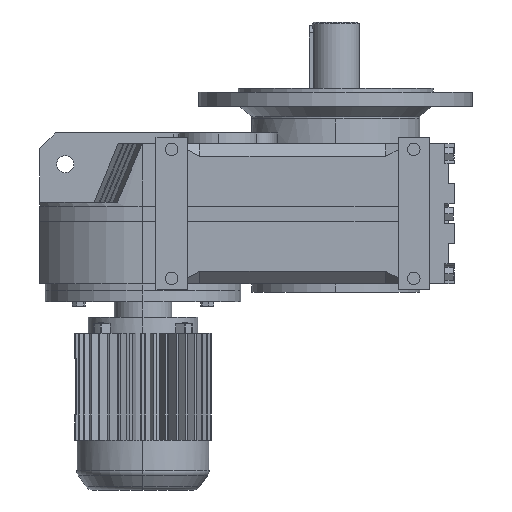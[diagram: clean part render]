
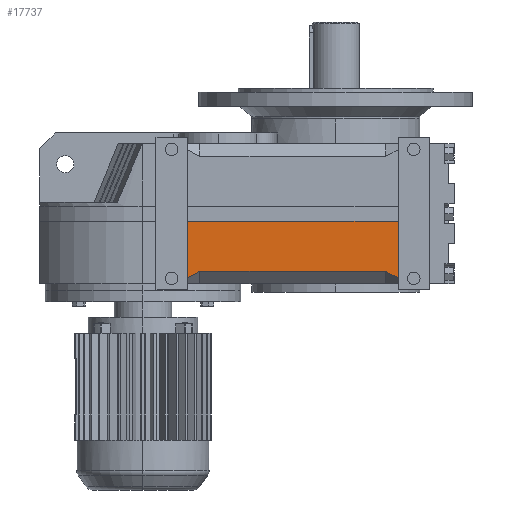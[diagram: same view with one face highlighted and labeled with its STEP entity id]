
A CAD part, left-side view. The second image highlights one B-rep face of the part: STEP entity #17737.
In plain terms, the highlighted planar face has unit normal (-1, 0, 0).
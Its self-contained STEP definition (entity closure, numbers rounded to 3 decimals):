
#2251 = PLANE('',#2252);
#2252 = AXIS2_PLACEMENT_3D('',#2253,#2254,#2255);
#2253 = CARTESIAN_POINT('',(-131.2,-56.7,1.));
#2254 = DIRECTION('',(0.,-1.,0.));
#2255 = DIRECTION('',(0.,0.,-1.));
#2363 = PLANE('',#2364);
#2364 = AXIS2_PLACEMENT_3D('',#2365,#2366,#2367);
#2365 = CARTESIAN_POINT('',(-131.2,-326.7,1.));
#2366 = DIRECTION('',(0.,1.,0.));
#2367 = DIRECTION('',(0.,0.,1.));
#10202 = VERTEX_POINT('',#10203);
#10203 = CARTESIAN_POINT('',(-157.2,-326.7,88.75));
#10217 = PLANE('',#10218);
#10218 = AXIS2_PLACEMENT_3D('',#10219,#10220,#10221);
#10219 = CARTESIAN_POINT('',(-11.809,1.,88.75));
#10220 = DIRECTION('',(0.,0.,-1.));
#10221 = DIRECTION('',(-1.,0.,0.));
#10229 = EDGE_CURVE('',#10230,#10202,#10232,.T.);
#10230 = VERTEX_POINT('',#10231);
#10231 = CARTESIAN_POINT('',(-157.2,-326.7,16.564));
#10232 = SURFACE_CURVE('',#10233,(#10237,#10244),.PCURVE_S1.);
#10233 = LINE('',#10234,#10235);
#10234 = CARTESIAN_POINT('',(-157.2,-326.7,188.2));
#10235 = VECTOR('',#10236,1.);
#10236 = DIRECTION('',(0.,0.,1.));
#10237 = PCURVE('',#2363,#10238);
#10238 = DEFINITIONAL_REPRESENTATION('',(#10239),#10243);
#10239 = LINE('',#10240,#10241);
#10240 = CARTESIAN_POINT('',(187.2,-26.));
#10241 = VECTOR('',#10242,1.);
#10242 = DIRECTION('',(1.,0.));
#10243 = ( GEOMETRIC_REPRESENTATION_CONTEXT(2) 
PARAMETRIC_REPRESENTATION_CONTEXT() REPRESENTATION_CONTEXT('2D SPACE',''
  ) );
#10244 = PCURVE('',#10245,#10250);
#10245 = PLANE('',#10246);
#10246 = AXIS2_PLACEMENT_3D('',#10247,#10248,#10249);
#10247 = CARTESIAN_POINT('',(-157.2,-398.7,188.2));
#10248 = DIRECTION('',(1.,0.,0.));
#10249 = DIRECTION('',(0.,0.,-1.));
#10250 = DEFINITIONAL_REPRESENTATION('',(#10251),#10255);
#10251 = LINE('',#10252,#10253);
#10252 = CARTESIAN_POINT('',(0.,72.));
#10253 = VECTOR('',#10254,1.);
#10254 = DIRECTION('',(-1.,0.));
#10255 = ( GEOMETRIC_REPRESENTATION_CONTEXT(2) 
PARAMETRIC_REPRESENTATION_CONTEXT() REPRESENTATION_CONTEXT('2D SPACE',''
  ) );
#10273 = PLANE('',#10274);
#10274 = AXIS2_PLACEMENT_3D('',#10275,#10276,#10277);
#10275 = CARTESIAN_POINT('',(-136.418,-326.7,-4.218));
#10276 = DIRECTION('',(0.664,-0.342,0.664));
#10277 = DIRECTION('',(0.707,0.,-0.707));
#11404 = VERTEX_POINT('',#11405);
#11405 = CARTESIAN_POINT('',(-157.2,-56.7,16.564));
#11419 = PLANE('',#11420);
#11420 = AXIS2_PLACEMENT_3D('',#11421,#11422,#11423);
#11421 = CARTESIAN_POINT('',(-136.418,-56.7,-4.218));
#11422 = DIRECTION('',(0.664,0.342,0.664));
#11423 = DIRECTION('',(0.707,0.,-0.707));
#11431 = EDGE_CURVE('',#11432,#11404,#11434,.T.);
#11432 = VERTEX_POINT('',#11433);
#11433 = CARTESIAN_POINT('',(-157.2,-56.7,88.75));
#11434 = SURFACE_CURVE('',#11435,(#11439,#11446),.PCURVE_S1.);
#11435 = LINE('',#11436,#11437);
#11436 = CARTESIAN_POINT('',(-157.2,-56.7,188.2));
#11437 = VECTOR('',#11438,1.);
#11438 = DIRECTION('',(0.,0.,-1.));
#11439 = PCURVE('',#2251,#11440);
#11440 = DEFINITIONAL_REPRESENTATION('',(#11441),#11445);
#11441 = LINE('',#11442,#11443);
#11442 = CARTESIAN_POINT('',(-187.2,-26.));
#11443 = VECTOR('',#11444,1.);
#11444 = DIRECTION('',(1.,0.));
#11445 = ( GEOMETRIC_REPRESENTATION_CONTEXT(2) 
PARAMETRIC_REPRESENTATION_CONTEXT() REPRESENTATION_CONTEXT('2D SPACE',''
  ) );
#11446 = PCURVE('',#10245,#11447);
#11447 = DEFINITIONAL_REPRESENTATION('',(#11448),#11452);
#11448 = LINE('',#11449,#11450);
#11449 = CARTESIAN_POINT('',(0.,342.));
#11450 = VECTOR('',#11451,1.);
#11451 = DIRECTION('',(1.,0.));
#11452 = ( GEOMETRIC_REPRESENTATION_CONTEXT(2) 
PARAMETRIC_REPRESENTATION_CONTEXT() REPRESENTATION_CONTEXT('2D SPACE',''
  ) );
#14680 = PLANE('',#14681);
#14681 = AXIS2_PLACEMENT_3D('',#14682,#14683,#14684);
#14682 = CARTESIAN_POINT('',(-157.2,-398.7,24.8));
#14683 = DIRECTION('',(0.707,0.,0.707));
#14684 = DIRECTION('',(0.707,0.,-0.707));
#17692 = EDGE_CURVE('',#17693,#10230,#17695,.T.);
#17693 = VERTEX_POINT('',#17694);
#17694 = CARTESIAN_POINT('',(-157.2,-310.7,24.8));
#17695 = SURFACE_CURVE('',#17696,(#17700,#17707),.PCURVE_S1.);
#17696 = LINE('',#17697,#17698);
#17697 = CARTESIAN_POINT('',(-157.2,-313.777,23.216));
#17698 = VECTOR('',#17699,1.);
#17699 = DIRECTION('',(0.,-0.889,-0.458));
#17700 = PCURVE('',#10273,#17701);
#17701 = DEFINITIONAL_REPRESENTATION('',(#17702),#17706);
#17702 = LINE('',#17703,#17704);
#17703 = CARTESIAN_POINT('',(-34.094,13.752));
#17704 = VECTOR('',#17705,1.);
#17705 = DIRECTION('',(0.324,-0.946));
#17706 = ( GEOMETRIC_REPRESENTATION_CONTEXT(2) 
PARAMETRIC_REPRESENTATION_CONTEXT() REPRESENTATION_CONTEXT('2D SPACE',''
  ) );
#17707 = PCURVE('',#10245,#17708);
#17708 = DEFINITIONAL_REPRESENTATION('',(#17709),#17713);
#17709 = LINE('',#17710,#17711);
#17710 = CARTESIAN_POINT('',(164.984,84.923));
#17711 = VECTOR('',#17712,1.);
#17712 = DIRECTION('',(0.458,-0.889));
#17713 = ( GEOMETRIC_REPRESENTATION_CONTEXT(2) 
PARAMETRIC_REPRESENTATION_CONTEXT() REPRESENTATION_CONTEXT('2D SPACE',''
  ) );
#17737 = ADVANCED_FACE('',(#17738),#10245,.F.);
#17738 = FACE_BOUND('',#17739,.T.);
#17739 = EDGE_LOOP('',(#17740,#17741,#17764,#17785,#17786,#17787));
#17740 = ORIENTED_EDGE('',*,*,#11431,.T.);
#17741 = ORIENTED_EDGE('',*,*,#17742,.T.);
#17742 = EDGE_CURVE('',#11404,#17743,#17745,.T.);
#17743 = VERTEX_POINT('',#17744);
#17744 = CARTESIAN_POINT('',(-157.2,-72.7,24.8));
#17745 = SURFACE_CURVE('',#17746,(#17750,#17757),.PCURVE_S1.);
#17746 = LINE('',#17747,#17748);
#17747 = CARTESIAN_POINT('',(-157.2,-396.909,191.68));
#17748 = VECTOR('',#17749,1.);
#17749 = DIRECTION('',(0.,-0.889,0.458));
#17750 = PCURVE('',#10245,#17751);
#17751 = DEFINITIONAL_REPRESENTATION('',(#17752),#17756);
#17752 = LINE('',#17753,#17754);
#17753 = CARTESIAN_POINT('',(-3.48,1.791));
#17754 = VECTOR('',#17755,1.);
#17755 = DIRECTION('',(-0.458,-0.889));
#17756 = ( GEOMETRIC_REPRESENTATION_CONTEXT(2) 
PARAMETRIC_REPRESENTATION_CONTEXT() REPRESENTATION_CONTEXT('2D SPACE',''
  ) );
#17757 = PCURVE('',#11419,#17758);
#17758 = DEFINITIONAL_REPRESENTATION('',(#17759),#17763);
#17759 = LINE('',#17760,#17761);
#17760 = CARTESIAN_POINT('',(-153.216,-362.042));
#17761 = VECTOR('',#17762,1.);
#17762 = DIRECTION('',(-0.324,-0.946));
#17763 = ( GEOMETRIC_REPRESENTATION_CONTEXT(2) 
PARAMETRIC_REPRESENTATION_CONTEXT() REPRESENTATION_CONTEXT('2D SPACE',''
  ) );
#17764 = ORIENTED_EDGE('',*,*,#17765,.T.);
#17765 = EDGE_CURVE('',#17743,#17693,#17766,.T.);
#17766 = SURFACE_CURVE('',#17767,(#17771,#17778),.PCURVE_S1.);
#17767 = LINE('',#17768,#17769);
#17768 = CARTESIAN_POINT('',(-157.2,-398.7,24.8));
#17769 = VECTOR('',#17770,1.);
#17770 = DIRECTION('',(0.,-1.,0.));
#17771 = PCURVE('',#10245,#17772);
#17772 = DEFINITIONAL_REPRESENTATION('',(#17773),#17777);
#17773 = LINE('',#17774,#17775);
#17774 = CARTESIAN_POINT('',(163.4,0.));
#17775 = VECTOR('',#17776,1.);
#17776 = DIRECTION('',(0.,-1.));
#17777 = ( GEOMETRIC_REPRESENTATION_CONTEXT(2) 
PARAMETRIC_REPRESENTATION_CONTEXT() REPRESENTATION_CONTEXT('2D SPACE',''
  ) );
#17778 = PCURVE('',#14680,#17779);
#17779 = DEFINITIONAL_REPRESENTATION('',(#17780),#17784);
#17780 = LINE('',#17781,#17782);
#17781 = CARTESIAN_POINT('',(0.,0.));
#17782 = VECTOR('',#17783,1.);
#17783 = DIRECTION('',(0.,-1.));
#17784 = ( GEOMETRIC_REPRESENTATION_CONTEXT(2) 
PARAMETRIC_REPRESENTATION_CONTEXT() REPRESENTATION_CONTEXT('2D SPACE',''
  ) );
#17785 = ORIENTED_EDGE('',*,*,#17692,.T.);
#17786 = ORIENTED_EDGE('',*,*,#10229,.T.);
#17787 = ORIENTED_EDGE('',*,*,#17788,.T.);
#17788 = EDGE_CURVE('',#10202,#11432,#17789,.T.);
#17789 = SURFACE_CURVE('',#17790,(#17794,#17801),.PCURVE_S1.);
#17790 = LINE('',#17791,#17792);
#17791 = CARTESIAN_POINT('',(-157.2,-398.7,88.75));
#17792 = VECTOR('',#17793,1.);
#17793 = DIRECTION('',(0.,1.,0.));
#17794 = PCURVE('',#10245,#17795);
#17795 = DEFINITIONAL_REPRESENTATION('',(#17796),#17800);
#17796 = LINE('',#17797,#17798);
#17797 = CARTESIAN_POINT('',(99.45,0.));
#17798 = VECTOR('',#17799,1.);
#17799 = DIRECTION('',(0.,1.));
#17800 = ( GEOMETRIC_REPRESENTATION_CONTEXT(2) 
PARAMETRIC_REPRESENTATION_CONTEXT() REPRESENTATION_CONTEXT('2D SPACE',''
  ) );
#17801 = PCURVE('',#10217,#17802);
#17802 = DEFINITIONAL_REPRESENTATION('',(#17803),#17807);
#17803 = LINE('',#17804,#17805);
#17804 = CARTESIAN_POINT('',(145.391,-399.7));
#17805 = VECTOR('',#17806,1.);
#17806 = DIRECTION('',(0.,1.));
#17807 = ( GEOMETRIC_REPRESENTATION_CONTEXT(2) 
PARAMETRIC_REPRESENTATION_CONTEXT() REPRESENTATION_CONTEXT('2D SPACE',''
  ) );
